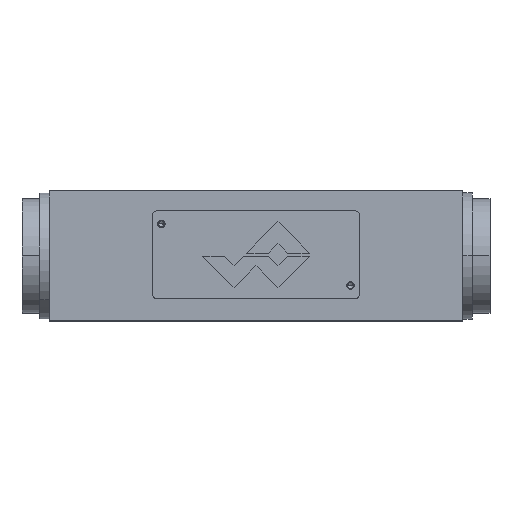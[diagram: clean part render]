
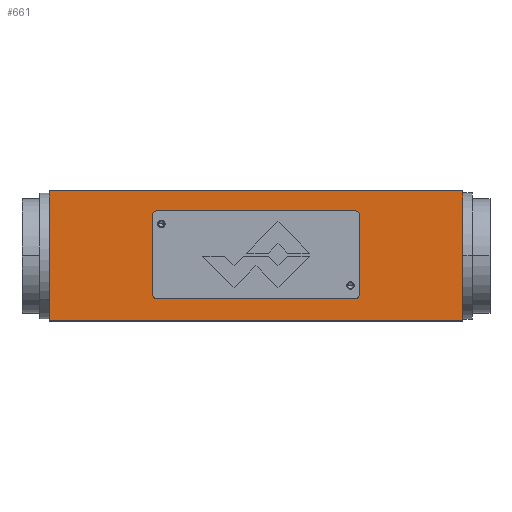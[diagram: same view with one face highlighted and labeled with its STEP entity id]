
A CAD part, top view. The second image highlights one B-rep face of the part: STEP entity #661.
In plain terms, the highlighted planar face has unit normal (0, 0, 1).
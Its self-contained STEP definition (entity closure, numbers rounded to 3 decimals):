
#114 = EDGE_CURVE ( 'NONE', #7259, #1333, #5895, .T. ) ;
#164 = LINE ( 'NONE', #4351, #4211 ) ;
#175 = EDGE_CURVE ( 'NONE', #5831, #1848, #4707, .T. ) ;
#180 = EDGE_CURVE ( 'NONE', #7259, #1910, #1786, .T. ) ;
#197 = VERTEX_POINT ( 'NONE', #5927 ) ;
#290 = EDGE_CURVE ( 'NONE', #5831, #1785, #6879, .T. ) ;
#320 = DIRECTION ( 'NONE',  ( 0., -1., 0. ) ) ;
#415 = ORIENTED_EDGE ( 'NONE', *, *, #180, .F. ) ;
#521 = CARTESIAN_POINT ( 'NONE',  ( -22.5, 5., 20. ) ) ;
#661 = ADVANCED_FACE ( 'NONE', ( #731, #6069 ), #764, .F. ) ;
#717 = CARTESIAN_POINT ( 'NONE',  ( -23.5, 24., 20. ) ) ;
#731 = FACE_OUTER_BOUND ( 'NONE', #7368, .T. ) ;
#764 = PLANE ( 'NONE',  #5762 ) ;
#807 = VECTOR ( 'NONE', #5818, 1000. ) ;
#989 = CARTESIAN_POINT ( 'NONE',  ( -22.5, 25., 20. ) ) ;
#1187 = EDGE_CURVE ( 'NONE', #197, #1910, #4438, .T. ) ;
#1189 = AXIS2_PLACEMENT_3D ( 'NONE', #4084, #2319, #4741 ) ;
#1333 = VERTEX_POINT ( 'NONE', #2875 ) ;
#1360 = EDGE_CURVE ( 'NONE', #4832, #4003, #3335, .T. ) ;
#1364 = DIRECTION ( 'NONE',  ( 0., -1., 0. ) ) ;
#1515 = CARTESIAN_POINT ( 'NONE',  ( 47., 0., 20. ) ) ;
#1653 = CARTESIAN_POINT ( 'NONE',  ( -47., 29.5, 20. ) ) ;
#1673 = VECTOR ( 'NONE', #5851, 1000. ) ;
#1785 = VERTEX_POINT ( 'NONE', #7472 ) ;
#1786 = LINE ( 'NONE', #4780, #1673 ) ;
#1821 = VECTOR ( 'NONE', #2245, 1000. ) ;
#1836 = ORIENTED_EDGE ( 'NONE', *, *, #290, .T. ) ;
#1848 = VERTEX_POINT ( 'NONE', #989 ) ;
#1910 = VERTEX_POINT ( 'NONE', #6813 ) ;
#2057 = CARTESIAN_POINT ( 'NONE',  ( -47., 29.5, 20. ) ) ;
#2245 = DIRECTION ( 'NONE',  ( 1., 0., 0. ) ) ;
#2268 = EDGE_CURVE ( 'NONE', #5642, #4003, #164, .T. ) ;
#2319 = DIRECTION ( 'NONE',  ( 0., 0., -1. ) ) ;
#2476 = AXIS2_PLACEMENT_3D ( 'NONE', #6620, #2939, #3682 ) ;
#2679 = VECTOR ( 'NONE', #3040, 1000. ) ;
#2702 = DIRECTION ( 'NONE',  ( -1., 0., 0. ) ) ;
#2832 = ORIENTED_EDGE ( 'NONE', *, *, #1360, .T. ) ;
#2875 = CARTESIAN_POINT ( 'NONE',  ( -23.5, 6., 20. ) ) ;
#2876 = DIRECTION ( 'NONE',  ( 0., 1., 0. ) ) ;
#2939 = DIRECTION ( 'NONE',  ( 0., 0., -1. ) ) ;
#2955 = VECTOR ( 'NONE', #2876, 1000. ) ;
#3040 = DIRECTION ( 'NONE',  ( 1., 0., 0. ) ) ;
#3068 = CARTESIAN_POINT ( 'NONE',  ( 22.5, 6., 20. ) ) ;
#3226 = CARTESIAN_POINT ( 'NONE',  ( -23.5, 5., 20. ) ) ;
#3293 = AXIS2_PLACEMENT_3D ( 'NONE', #3068, #5443, #5479 ) ;
#3335 = LINE ( 'NONE', #5730, #1821 ) ;
#3391 = EDGE_CURVE ( 'NONE', #4385, #5642, #5950, .T. ) ;
#3445 = CARTESIAN_POINT ( 'NONE',  ( -23.5, 25., 20. ) ) ;
#3458 = EDGE_LOOP ( 'NONE', ( #415, #5093, #5813, #6142, #4071, #1836, #7079, #6424 ) ) ;
#3615 = CARTESIAN_POINT ( 'NONE',  ( 47., 29.5, 20. ) ) ;
#3682 = DIRECTION ( 'NONE',  ( -1., 0., 0. ) ) ;
#3861 = LINE ( 'NONE', #3226, #5311 ) ;
#3973 = CARTESIAN_POINT ( 'NONE',  ( -47., 0., 20. ) ) ;
#4003 = VERTEX_POINT ( 'NONE', #1515 ) ;
#4071 = ORIENTED_EDGE ( 'NONE', *, *, #175, .F. ) ;
#4084 = CARTESIAN_POINT ( 'NONE',  ( -22.5, 6., 20. ) ) ;
#4211 = VECTOR ( 'NONE', #5499, 1000. ) ;
#4351 = CARTESIAN_POINT ( 'NONE',  ( 47., 29.5, 20. ) ) ;
#4385 = VERTEX_POINT ( 'NONE', #1653 ) ;
#4395 = DIRECTION ( 'NONE',  ( -1., 0., 0. ) ) ;
#4402 = CARTESIAN_POINT ( 'NONE',  ( 22.5, 25., 20. ) ) ;
#4438 = CIRCLE ( 'NONE', #3293, 1. ) ;
#4501 = EDGE_CURVE ( 'NONE', #6444, #1333, #3861, .T. ) ;
#4707 = LINE ( 'NONE', #3445, #807 ) ;
#4741 = DIRECTION ( 'NONE',  ( -1., 0., 0. ) ) ;
#4776 = EDGE_CURVE ( 'NONE', #197, #1785, #7661, .T. ) ;
#4780 = CARTESIAN_POINT ( 'NONE',  ( -23.5, 5., 20. ) ) ;
#4832 = VERTEX_POINT ( 'NONE', #3973 ) ;
#4833 = CIRCLE ( 'NONE', #2476, 1. ) ;
#4944 = LINE ( 'NONE', #2057, #6616 ) ;
#5009 = ORIENTED_EDGE ( 'NONE', *, *, #7340, .T. ) ;
#5031 = DIRECTION ( 'NONE',  ( 0., 0., -1. ) ) ;
#5093 = ORIENTED_EDGE ( 'NONE', *, *, #114, .T. ) ;
#5148 = EDGE_CURVE ( 'NONE', #6444, #1848, #4833, .T. ) ;
#5311 = VECTOR ( 'NONE', #320, 1000. ) ;
#5401 = AXIS2_PLACEMENT_3D ( 'NONE', #7224, #6112, #4395 ) ;
#5443 = DIRECTION ( 'NONE',  ( 0., 0., -1. ) ) ;
#5479 = DIRECTION ( 'NONE',  ( -1., 0., 0. ) ) ;
#5499 = DIRECTION ( 'NONE',  ( 0., -1., 0. ) ) ;
#5642 = VERTEX_POINT ( 'NONE', #3615 ) ;
#5730 = CARTESIAN_POINT ( 'NONE',  ( -47., 0., 20. ) ) ;
#5762 = AXIS2_PLACEMENT_3D ( 'NONE', #6937, #5031, #2702 ) ;
#5813 = ORIENTED_EDGE ( 'NONE', *, *, #4501, .F. ) ;
#5818 = DIRECTION ( 'NONE',  ( -1., 0., 0. ) ) ;
#5831 = VERTEX_POINT ( 'NONE', #4402 ) ;
#5851 = DIRECTION ( 'NONE',  ( 1., 0., 0. ) ) ;
#5893 = CARTESIAN_POINT ( 'NONE',  ( 23.5, 5., 20. ) ) ;
#5895 = CIRCLE ( 'NONE', #1189, 1. ) ;
#5927 = CARTESIAN_POINT ( 'NONE',  ( 23.5, 6., 20. ) ) ;
#5950 = LINE ( 'NONE', #6065, #2679 ) ;
#6065 = CARTESIAN_POINT ( 'NONE',  ( -47., 29.5, 20. ) ) ;
#6069 = FACE_BOUND ( 'NONE', #3458, .T. ) ;
#6112 = DIRECTION ( 'NONE',  ( 0., 0., -1. ) ) ;
#6142 = ORIENTED_EDGE ( 'NONE', *, *, #5148, .T. ) ;
#6424 = ORIENTED_EDGE ( 'NONE', *, *, #1187, .T. ) ;
#6444 = VERTEX_POINT ( 'NONE', #717 ) ;
#6616 = VECTOR ( 'NONE', #1364, 1000. ) ;
#6620 = CARTESIAN_POINT ( 'NONE',  ( -22.5, 24., 20. ) ) ;
#6813 = CARTESIAN_POINT ( 'NONE',  ( 22.5, 5., 20. ) ) ;
#6879 = CIRCLE ( 'NONE', #5401, 1. ) ;
#6937 = CARTESIAN_POINT ( 'NONE',  ( -47., 29.5, 20. ) ) ;
#7045 = ORIENTED_EDGE ( 'NONE', *, *, #3391, .F. ) ;
#7079 = ORIENTED_EDGE ( 'NONE', *, *, #4776, .F. ) ;
#7224 = CARTESIAN_POINT ( 'NONE',  ( 22.5, 24., 20. ) ) ;
#7259 = VERTEX_POINT ( 'NONE', #521 ) ;
#7340 = EDGE_CURVE ( 'NONE', #4385, #4832, #4944, .T. ) ;
#7368 = EDGE_LOOP ( 'NONE', ( #2832, #7633, #7045, #5009 ) ) ;
#7472 = CARTESIAN_POINT ( 'NONE',  ( 23.5, 24., 20. ) ) ;
#7633 = ORIENTED_EDGE ( 'NONE', *, *, #2268, .F. ) ;
#7661 = LINE ( 'NONE', #5893, #2955 ) ;
